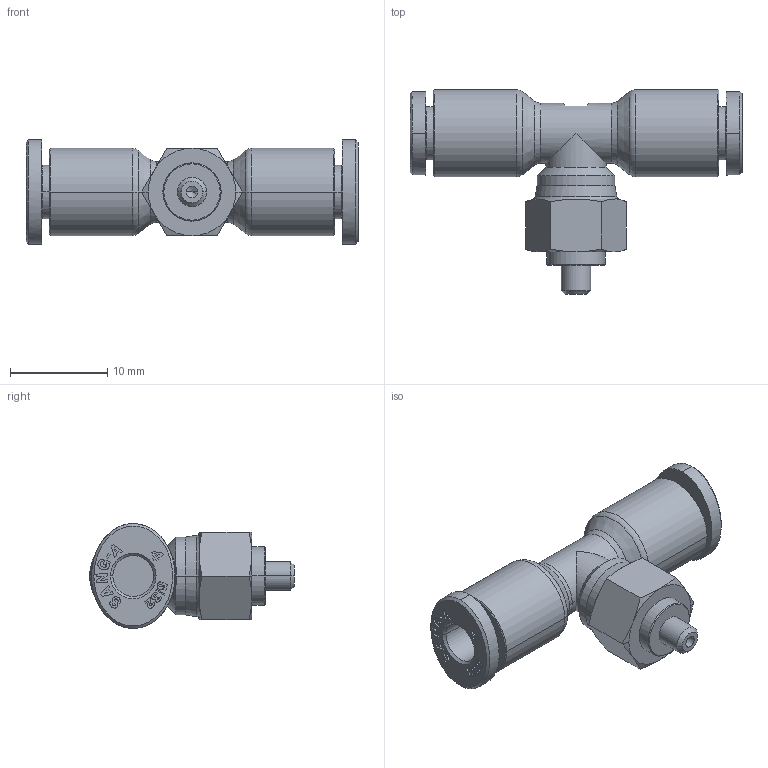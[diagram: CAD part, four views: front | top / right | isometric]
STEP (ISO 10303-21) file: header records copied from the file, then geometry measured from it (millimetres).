
FILE_DESCRIPTION((''),'2;1');
FILE_NAME('GPT 04M3(3D).stp','2012-12-26T18:52:30',(''),(''),'Mechanical Desktop.R8.0.24.0','Mechanical Desktop.R8.0.24.0',', , ');
FILE_SCHEMA(('CONFIG_CONTROL_DESIGN'));
Length unit declared in the file: millimetre
Products named in the file (2): GPT 04M3(3D); 睡ヶ1
Assembly tree (1 placements, depth 2):
  GPT 04M3(3D)
    睡ヶ1
Bounding box: 34.2 x 21.1 x 10.8 mm (x, y, z)
Volume: 2020.9 mm3; surface area: 2000 mm2
Topology: 1 solids, 1 shells, 834 faces, 2320 edges, 1523 vertices
Faces by surface type: plane 684, bspline 64, cone 42, cylinder 40, torus 4
Entity records: 27863 total; most frequent: CARTESIAN_POINT 6507, ORIENTED_EDGE 4636, DIRECTION 4078, EDGE_CURVE 2318, VECTOR 2022, LINE 2022, VERTEX_POINT 1523, AXIS2_PLACEMENT_3D 1028
